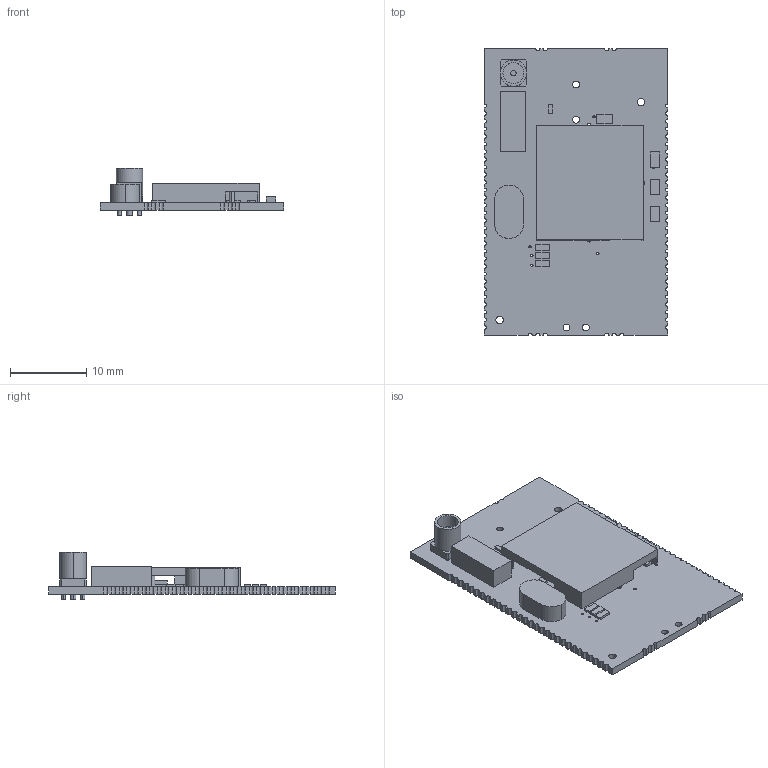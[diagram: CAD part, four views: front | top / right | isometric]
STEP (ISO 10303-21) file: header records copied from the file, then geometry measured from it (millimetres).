
FILE_DESCRIPTION (( 'STEP AP214' ), '1' );
FILE_NAME ('CANADIAN 061-0176.STEP', '2016-04-27T19:41:00', ( '' ), ( '' ), 'SwSTEP 2.0', 'SolidWorks 2015', '' );
FILE_SCHEMA (( 'AUTOMOTIVE_DESIGN' ));
Length unit declared in the file: millimetre
Products named in the file (12): QH072AF1A_QH072AF1A; 700-0173 - MMCX_JOHNSON_UFL_1_MMCX_JOHNSON_UFL_1-1; CSM3X_CSM3X; SHIELD-440-0045; ECX306_ECX306; TRT_TRT; TPTP_TP; 0603_0603; 02010201_0201; 0402_0402; 6300176REV3_DESIGN_LAYOUT_OSKI_CASTELLATED_MOTE_CANADIANpcb; CANADIAN 061-0176
Assembly tree (25 placements, depth 2):
  TRT_TRT
  TPTP_TP
  CANADIAN 061-0176
    6300176REV3_DESIGN_LAYOUT_OSKI_CASTELLATED_MOTE_CANADIANpcb
    0402_0402  x13
    02010201_0201  x2
    0603_0603  x4
    ECX306_ECX306
    SHIELD-440-0045
    CSM3X_CSM3X
    700-0173 - MMCX_JOHNSON_UFL_1_MMCX_JOHNSON_UFL_1-1
    QH072AF1A_QH072AF1A
Bounding box: 24 x 37.47 x 6.23 mm (x, y, z)
Volume: 1114.8 mm3; surface area: 3020.5 mm2
Topology: 25 solids, 25 shells, 426 faces, 1100 edges, 731 vertices
Faces by surface type: plane 262, cylinder 164
Entity records: 13812 total; most frequent: DIRECTION 1954, CARTESIAN_POINT 1869, ORIENTED_EDGE 1816, EDGE_CURVE 908, AXIS2_PLACEMENT_3D 688, VERTEX_POINT 603, VECTOR 578, LINE 578
